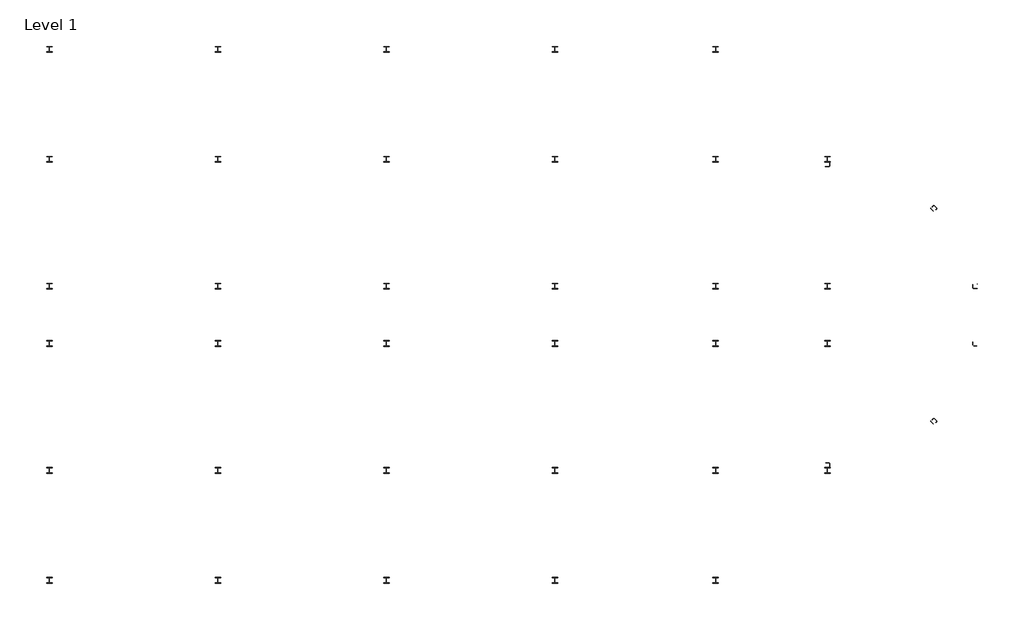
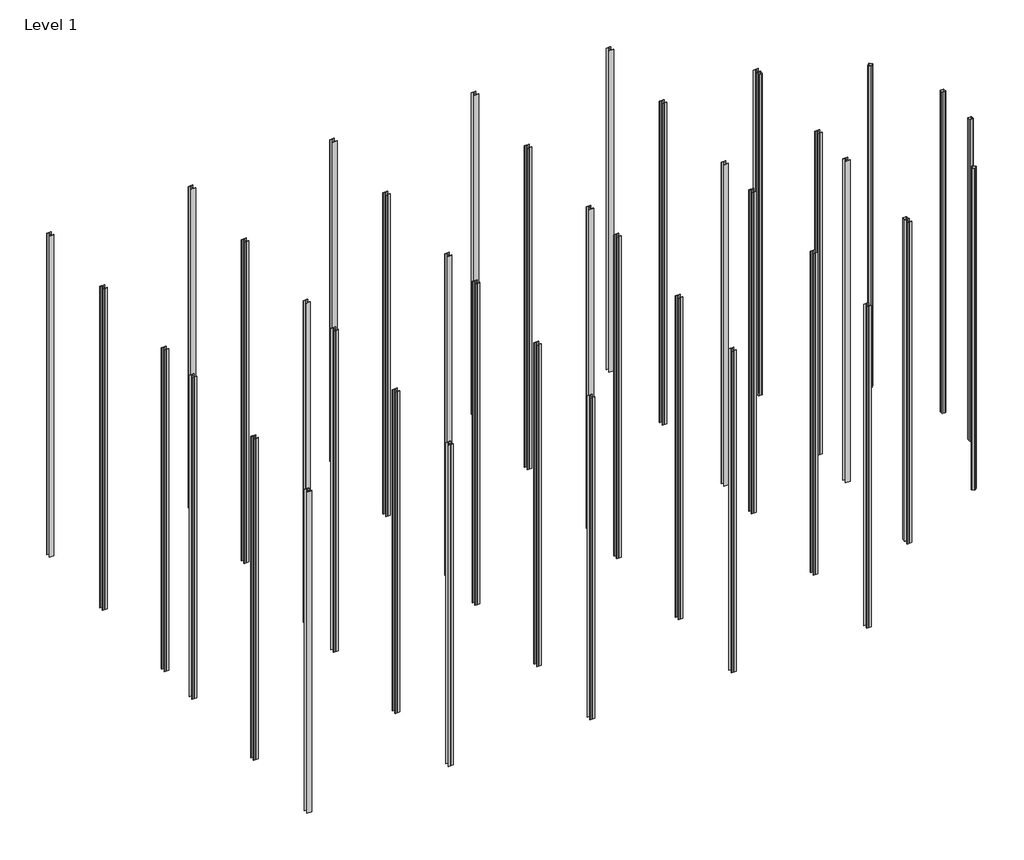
# One storey: 40 columns.
"""IFC4 building model written with IfcOpenShell, lengths in millimetres."""

from ifc_helpers import new_model, si_unit, origin, place, context, project, spatial, transform, mapped, element, save
from components import hss_hollow_structural_section_column_hss8x8x5_8_5248236a, w_shapes_column_w10x49_ccd02eb2

model = new_model("IFC4")

# Units and contexts
model_context = context("Model", 3, world=origin())
ifc_project = project(units=[si_unit("LENGTHUNIT", "METRE", prefix="MILLI")], contexts=[model_context])

# Site, building, storey
site = spatial("IfcSite", under=ifc_project)
building = spatial("IfcBuilding", under=site)
storey = spatial("IfcBuildingStorey", under=building, Name="Level 1", Elevation=0.0)

# Columns
placement = place(None, origin())
hss_hollow_structural_section_column_hss8x8x5_8_shape = hss_hollow_structural_section_column_hss8x8x5_8_5248236a(model_context)
element("IfcColumn", 1, ObjectType="HSS-Hollow Structural Section-Column : HSS8X8X5/8", at=placement, inside=storey, context=model_context, shape_type="MappedRepresentation", body=[
    mapped(hss_hollow_structural_section_column_hss8x8x5_8_shape, transform((24623.6673698, -1208.8226681, 0.0), x_axis=(1.0, 0.0, 0.0), y_axis=(0.0, 1.0, 0.0), z_axis=(0.0, 0.0, 1.0))),
])
element("IfcColumn", 2, ObjectType="HSS-Hollow Structural Section-Column : HSS8X8X5/8", at=placement, inside=storey, context=model_context, shape_type="MappedRepresentation", body=[
    mapped(hss_hollow_structural_section_column_hss8x8x5_8_shape, transform((24623.6673698, -3802.7976681, 0.0), x_axis=(1.0, 0.0, 0.0), y_axis=(0.0, 1.0, 0.0), z_axis=(0.0, 0.0, 1.0))),
])
element("IfcColumn", 3, ObjectType="HSS-Hollow Structural Section-Column : HSS8X8X5/8", at=placement, inside=storey, context=model_context, shape_type="MappedRepresentation", body=[
    mapped(hss_hollow_structural_section_column_hss8x8x5_8_shape, transform((22753.596317, 2309.8521769, 0.0), x_axis=(0.7071067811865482, 0.7071067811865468, 0.0), y_axis=(-0.7071067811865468, 0.7071067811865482, 0.0), z_axis=(0.0, 0.0, 1.0))),
])
element("IfcColumn", 4, ObjectType="HSS-Hollow Structural Section-Column : HSS8X8X5/8", at=placement, inside=storey, context=model_context, shape_type="MappedRepresentation", body=[
    mapped(hss_hollow_structural_section_column_hss8x8x5_8_shape, transform((22753.596317, -7321.472513, 0.0), x_axis=(0.7071067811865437, -0.7071067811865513, 0.0), y_axis=(0.7071067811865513, 0.7071067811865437, 0.0), z_axis=(0.0, 0.0, 1.0))),
])
element("IfcColumn", 5, ObjectType="HSS-Hollow Structural Section-Column : HSS8X8X5/8", at=placement, inside=storey, context=model_context, shape_type="MappedRepresentation", body=[
    mapped(hss_hollow_structural_section_column_hss8x8x5_8_shape, transform((17937.9339721, 4304.5648319, 0.0), x_axis=(1.0, 0.0, 0.0), y_axis=(0.0, 1.0, 0.0), z_axis=(0.0, 0.0, 1.0))),
])
element("IfcColumn", 6, ObjectType="HSS-Hollow Structural Section-Column : HSS8X8X5/8", at=placement, inside=storey, context=model_context, shape_type="MappedRepresentation", body=[
    mapped(hss_hollow_structural_section_column_hss8x8x5_8_shape, transform((17937.9339721, -9316.1851681, 0.0), x_axis=(1.0, 0.0, 0.0), y_axis=(0.0, 1.0, 0.0), z_axis=(0.0, 0.0, 1.0))),
])
w_shapes_column_w10x49_shape = w_shapes_column_w10x49_ccd02eb2(model_context)
element("IfcColumn", 7, ObjectType="W Shapes-Column : W10X49", at=placement, inside=storey, context=model_context, shape_type="MappedRepresentation", body=[
    mapped(w_shapes_column_w10x49_shape, transform((-17242.6535279, 9509.9773319, 0.0), x_axis=(1.0, 0.0, 0.0), y_axis=(0.0, 1.0, 0.0), z_axis=(0.0, 0.0, 1.0))),
])
element("IfcColumn", 8, ObjectType="W Shapes-Column : W10X49", at=placement, inside=storey, context=model_context, shape_type="MappedRepresentation", body=[
    mapped(w_shapes_column_w10x49_shape, transform((-17242.6535279, 4534.7523319, 0.0), x_axis=(1.0, 0.0, 0.0), y_axis=(0.0, 1.0, 0.0), z_axis=(0.0, 0.0, 1.0))),
])
element("IfcColumn", 9, ObjectType="W Shapes-Column : W10X49", at=placement, inside=storey, context=model_context, shape_type="MappedRepresentation", body=[
    mapped(w_shapes_column_w10x49_shape, transform((-17242.6535279, -1208.8226681, 0.0), x_axis=(1.0, 0.0, 0.0), y_axis=(0.0, 1.0, 0.0), z_axis=(0.0, 0.0, 1.0))),
])
element("IfcColumn", 10, ObjectType="W Shapes-Column : W10X49", at=placement, inside=storey, context=model_context, shape_type="MappedRepresentation", body=[
    mapped(w_shapes_column_w10x49_shape, transform((-17242.6535279, -3802.7976681, 0.0), x_axis=(1.0, 0.0, 0.0), y_axis=(0.0, 1.0, 0.0), z_axis=(0.0, 0.0, 1.0))),
])
element("IfcColumn", 11, ObjectType="W Shapes-Column : W10X49", at=placement, inside=storey, context=model_context, shape_type="MappedRepresentation", body=[
    mapped(w_shapes_column_w10x49_shape, transform((-17242.6535279, -9546.3726681, 0.0), x_axis=(1.0, 0.0, 0.0), y_axis=(0.0, 1.0, 0.0), z_axis=(0.0, 0.0, 1.0))),
])
element("IfcColumn", 12, ObjectType="W Shapes-Column : W10X49", at=placement, inside=storey, context=model_context, shape_type="MappedRepresentation", body=[
    mapped(w_shapes_column_w10x49_shape, transform((-17242.6535279, -14521.5976681, 0.0), x_axis=(1.0, 0.0, 0.0), y_axis=(0.0, 1.0, 0.0), z_axis=(0.0, 0.0, 1.0))),
])
element("IfcColumn", 13, ObjectType="W Shapes-Column : W10X49", at=placement, inside=storey, context=model_context, shape_type="MappedRepresentation", body=[
    mapped(w_shapes_column_w10x49_shape, transform((-9622.6535279, 9509.9773319, 0.0), x_axis=(1.0, 0.0, 0.0), y_axis=(0.0, 1.0, 0.0), z_axis=(0.0, 0.0, 1.0))),
])
element("IfcColumn", 14, ObjectType="W Shapes-Column : W10X49", at=placement, inside=storey, context=model_context, shape_type="MappedRepresentation", body=[
    mapped(w_shapes_column_w10x49_shape, transform((-9622.6535279, 4534.7523319, 0.0), x_axis=(1.0, 0.0, 0.0), y_axis=(0.0, 1.0, 0.0), z_axis=(0.0, 0.0, 1.0))),
])
element("IfcColumn", 15, ObjectType="W Shapes-Column : W10X49", at=placement, inside=storey, context=model_context, shape_type="MappedRepresentation", body=[
    mapped(w_shapes_column_w10x49_shape, transform((-9622.6535279, -1208.8226681, 0.0), x_axis=(1.0, 0.0, 0.0), y_axis=(0.0, 1.0, 0.0), z_axis=(0.0, 0.0, 1.0))),
])
element("IfcColumn", 16, ObjectType="W Shapes-Column : W10X49", at=placement, inside=storey, context=model_context, shape_type="MappedRepresentation", body=[
    mapped(w_shapes_column_w10x49_shape, transform((-9622.6535279, -3802.7976681, 0.0), x_axis=(1.0, 0.0, 0.0), y_axis=(0.0, 1.0, 0.0), z_axis=(0.0, 0.0, 1.0))),
])
element("IfcColumn", 17, ObjectType="W Shapes-Column : W10X49", at=placement, inside=storey, context=model_context, shape_type="MappedRepresentation", body=[
    mapped(w_shapes_column_w10x49_shape, transform((-9622.6535279, -9546.3726681, 0.0), x_axis=(1.0, 0.0, 0.0), y_axis=(0.0, 1.0, 0.0), z_axis=(0.0, 0.0, 1.0))),
])
element("IfcColumn", 18, ObjectType="W Shapes-Column : W10X49", at=placement, inside=storey, context=model_context, shape_type="MappedRepresentation", body=[
    mapped(w_shapes_column_w10x49_shape, transform((-9622.6535279, -14521.5976681, 0.0), x_axis=(1.0, 0.0, 0.0), y_axis=(0.0, 1.0, 0.0), z_axis=(0.0, 0.0, 1.0))),
])
element("IfcColumn", 19, ObjectType="W Shapes-Column : W10X49", at=placement, inside=storey, context=model_context, shape_type="MappedRepresentation", body=[
    mapped(w_shapes_column_w10x49_shape, transform((-2002.6535279, 9509.9773319, 0.0), x_axis=(1.0, 0.0, 0.0), y_axis=(0.0, 1.0, 0.0), z_axis=(0.0, 0.0, 1.0))),
])
element("IfcColumn", 20, ObjectType="W Shapes-Column : W10X49", at=placement, inside=storey, context=model_context, shape_type="MappedRepresentation", body=[
    mapped(w_shapes_column_w10x49_shape, transform((-2002.6535279, 4534.7523319, 0.0), x_axis=(1.0, 0.0, 0.0), y_axis=(0.0, 1.0, 0.0), z_axis=(0.0, 0.0, 1.0))),
])
element("IfcColumn", 21, ObjectType="W Shapes-Column : W10X49", at=placement, inside=storey, context=model_context, shape_type="MappedRepresentation", body=[
    mapped(w_shapes_column_w10x49_shape, transform((-2002.6535279, -1208.8226681, 0.0), x_axis=(1.0, 0.0, 0.0), y_axis=(0.0, 1.0, 0.0), z_axis=(0.0, 0.0, 1.0))),
])
element("IfcColumn", 22, ObjectType="W Shapes-Column : W10X49", at=placement, inside=storey, context=model_context, shape_type="MappedRepresentation", body=[
    mapped(w_shapes_column_w10x49_shape, transform((-2002.6535279, -3802.7976681, 0.0), x_axis=(1.0, 0.0, 0.0), y_axis=(0.0, 1.0, 0.0), z_axis=(0.0, 0.0, 1.0))),
])
element("IfcColumn", 23, ObjectType="W Shapes-Column : W10X49", at=placement, inside=storey, context=model_context, shape_type="MappedRepresentation", body=[
    mapped(w_shapes_column_w10x49_shape, transform((-2002.6535279, -9546.3726681, 0.0), x_axis=(1.0, 0.0, 0.0), y_axis=(0.0, 1.0, 0.0), z_axis=(0.0, 0.0, 1.0))),
])
element("IfcColumn", 24, ObjectType="W Shapes-Column : W10X49", at=placement, inside=storey, context=model_context, shape_type="MappedRepresentation", body=[
    mapped(w_shapes_column_w10x49_shape, transform((-2002.6535279, -14521.5976681, 0.0), x_axis=(1.0, 0.0, 0.0), y_axis=(0.0, 1.0, 0.0), z_axis=(0.0, 0.0, 1.0))),
])
element("IfcColumn", 25, ObjectType="W Shapes-Column : W10X49", at=placement, inside=storey, context=model_context, shape_type="MappedRepresentation", body=[
    mapped(w_shapes_column_w10x49_shape, transform((5617.3464721, 9509.9773319, 0.0), x_axis=(1.0, 0.0, 0.0), y_axis=(0.0, 1.0, 0.0), z_axis=(0.0, 0.0, 1.0))),
])
element("IfcColumn", 26, ObjectType="W Shapes-Column : W10X49", at=placement, inside=storey, context=model_context, shape_type="MappedRepresentation", body=[
    mapped(w_shapes_column_w10x49_shape, transform((5617.3464721, 4534.7523319, 0.0), x_axis=(1.0, 0.0, 0.0), y_axis=(0.0, 1.0, 0.0), z_axis=(0.0, 0.0, 1.0))),
])
element("IfcColumn", 27, ObjectType="W Shapes-Column : W10X49", at=placement, inside=storey, context=model_context, shape_type="MappedRepresentation", body=[
    mapped(w_shapes_column_w10x49_shape, transform((5617.3464721, -1208.8226681, 0.0), x_axis=(1.0, 0.0, 0.0), y_axis=(0.0, 1.0, 0.0), z_axis=(0.0, 0.0, 1.0))),
])
element("IfcColumn", 28, ObjectType="W Shapes-Column : W10X49", at=placement, inside=storey, context=model_context, shape_type="MappedRepresentation", body=[
    mapped(w_shapes_column_w10x49_shape, transform((5617.3464721, -3802.7976681, 0.0), x_axis=(1.0, 0.0, 0.0), y_axis=(0.0, 1.0, 0.0), z_axis=(0.0, 0.0, 1.0))),
])
element("IfcColumn", 29, ObjectType="W Shapes-Column : W10X49", at=placement, inside=storey, context=model_context, shape_type="MappedRepresentation", body=[
    mapped(w_shapes_column_w10x49_shape, transform((5617.3464721, -9546.3726681, 0.0), x_axis=(1.0, 0.0, 0.0), y_axis=(0.0, 1.0, 0.0), z_axis=(0.0, 0.0, 1.0))),
])
element("IfcColumn", 30, ObjectType="W Shapes-Column : W10X49", at=placement, inside=storey, context=model_context, shape_type="MappedRepresentation", body=[
    mapped(w_shapes_column_w10x49_shape, transform((5617.3464721, -14521.5976681, 0.0), x_axis=(1.0, 0.0, 0.0), y_axis=(0.0, 1.0, 0.0), z_axis=(0.0, 0.0, 1.0))),
])
element("IfcColumn", 31, ObjectType="W Shapes-Column : W10X49", at=placement, inside=storey, context=model_context, shape_type="MappedRepresentation", body=[
    mapped(w_shapes_column_w10x49_shape, transform((12884.9214721, 9509.9773319, 0.0), x_axis=(1.0, 0.0, 0.0), y_axis=(0.0, 1.0, 0.0), z_axis=(0.0, 0.0, 1.0))),
])
element("IfcColumn", 32, ObjectType="W Shapes-Column : W10X49", at=placement, inside=storey, context=model_context, shape_type="MappedRepresentation", body=[
    mapped(w_shapes_column_w10x49_shape, transform((12884.9214721, 4534.7523319, 0.0), x_axis=(1.0, 0.0, 0.0), y_axis=(0.0, 1.0, 0.0), z_axis=(0.0, 0.0, 1.0))),
])
element("IfcColumn", 33, ObjectType="W Shapes-Column : W10X49", at=placement, inside=storey, context=model_context, shape_type="MappedRepresentation", body=[
    mapped(w_shapes_column_w10x49_shape, transform((12884.9214721, -1208.8226681, 0.0), x_axis=(1.0, 0.0, 0.0), y_axis=(0.0, 1.0, 0.0), z_axis=(0.0, 0.0, 1.0))),
])
element("IfcColumn", 34, ObjectType="W Shapes-Column : W10X49", at=placement, inside=storey, context=model_context, shape_type="MappedRepresentation", body=[
    mapped(w_shapes_column_w10x49_shape, transform((12884.9214721, -3802.7976681, 0.0), x_axis=(1.0, 0.0, 0.0), y_axis=(0.0, 1.0, 0.0), z_axis=(0.0, 0.0, 1.0))),
])
element("IfcColumn", 35, ObjectType="W Shapes-Column : W10X49", at=placement, inside=storey, context=model_context, shape_type="MappedRepresentation", body=[
    mapped(w_shapes_column_w10x49_shape, transform((12884.9214721, -9546.3726681, 0.0), x_axis=(1.0, 0.0, 0.0), y_axis=(0.0, 1.0, 0.0), z_axis=(0.0, 0.0, 1.0))),
])
element("IfcColumn", 36, ObjectType="W Shapes-Column : W10X49", at=placement, inside=storey, context=model_context, shape_type="MappedRepresentation", body=[
    mapped(w_shapes_column_w10x49_shape, transform((12884.9214721, -14521.5976681, 0.0), x_axis=(1.0, 0.0, 0.0), y_axis=(0.0, 1.0, 0.0), z_axis=(0.0, 0.0, 1.0))),
])
element("IfcColumn", 37, ObjectType="W Shapes-Column : W10X49", at=placement, inside=storey, context=model_context, shape_type="MappedRepresentation", body=[
    mapped(w_shapes_column_w10x49_shape, transform((17937.9339721, 4534.7523319, 0.0), x_axis=(1.0, 0.0, 0.0), y_axis=(0.0, 1.0, 0.0), z_axis=(0.0, 0.0, 1.0))),
])
element("IfcColumn", 38, ObjectType="W Shapes-Column : W10X49", at=placement, inside=storey, context=model_context, shape_type="MappedRepresentation", body=[
    mapped(w_shapes_column_w10x49_shape, transform((17937.9339721, -1208.8226681, 0.0), x_axis=(1.0, 0.0, 0.0), y_axis=(0.0, 1.0, 0.0), z_axis=(0.0, 0.0, 1.0))),
])
element("IfcColumn", 39, ObjectType="W Shapes-Column : W10X49", at=placement, inside=storey, context=model_context, shape_type="MappedRepresentation", body=[
    mapped(w_shapes_column_w10x49_shape, transform((17937.9339721, -3802.7976681, 0.0), x_axis=(1.0, 0.0, 0.0), y_axis=(0.0, 1.0, 0.0), z_axis=(0.0, 0.0, 1.0))),
])
element("IfcColumn", 40, ObjectType="W Shapes-Column : W10X49", at=placement, inside=storey, context=model_context, shape_type="MappedRepresentation", body=[
    mapped(w_shapes_column_w10x49_shape, transform((17937.9339721, -9546.3726681, 0.0), x_axis=(1.0, 0.0, 0.0), y_axis=(0.0, 1.0, 0.0), z_axis=(0.0, 0.0, 1.0))),
])

save(model, "model.ifc")
